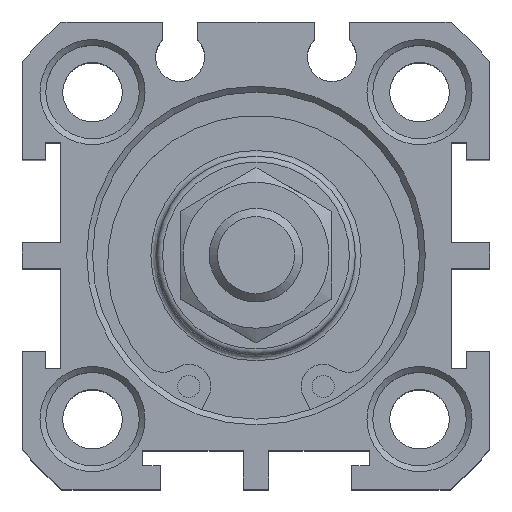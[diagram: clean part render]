
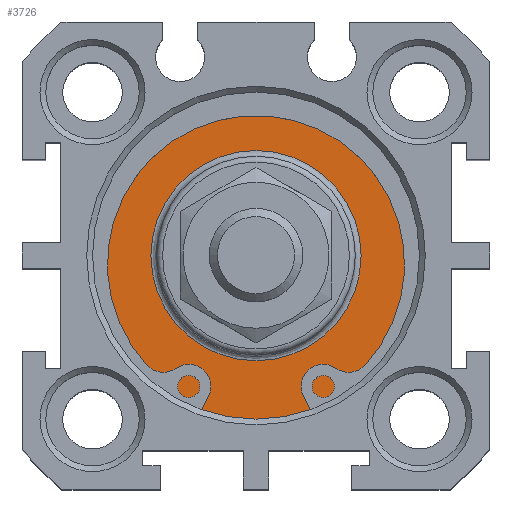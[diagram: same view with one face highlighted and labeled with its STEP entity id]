
A CAD part, top view. The second image highlights one B-rep face of the part: STEP entity #3726.
In plain terms, the highlighted planar face has unit normal (0, 0, 1).
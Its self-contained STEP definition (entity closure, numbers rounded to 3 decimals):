
#3675=CARTESIAN_POINT('',(0.12,10.914,38.3));
#3676=VERTEX_POINT('',#3675);
#3677=CARTESIAN_POINT('',(0.12,1.914,38.3));
#3678=DIRECTION('',(0.0,0.0,1.0));
#3679=DIRECTION('',(0.0,-1.0,0.0));
#3680=AXIS2_PLACEMENT_3D('',#3677,#3678,#3679);
#3681=CIRCLE('',#3680,9.);
#3682=EDGE_CURVE('',#3676,#3676,#3681,.T.);
#3707=CARTESIAN_POINT('',(0.12,13.164,38.3));
#3708=DIRECTION('',(0.0,0.0,1.0));
#3709=DIRECTION('',(1.0,0.0,0.0));
#3710=AXIS2_PLACEMENT_3D('',#3707,#3708,#3709);
#3711=PLANE('',#3710);
#3712=CARTESIAN_POINT('',(0.12,15.914,38.3));
#3713=VERTEX_POINT('',#3712);
#3714=CARTESIAN_POINT('',(0.12,1.914,38.3));
#3715=DIRECTION('',(0.0,0.0,-1.0));
#3716=DIRECTION('',(0.0,1.0,0.0));
#3717=AXIS2_PLACEMENT_3D('',#3714,#3715,#3716);
#3718=CIRCLE('',#3717,14.);
#3719=EDGE_CURVE('',#3713,#3713,#3718,.T.);
#3720=ORIENTED_EDGE('',*,*,#3719,.F.);
#3721=EDGE_LOOP('',(#3720));
#3722=FACE_OUTER_BOUND('',#3721,.T.);
#3723=ORIENTED_EDGE('',*,*,#3682,.F.);
#3724=EDGE_LOOP('',(#3723));
#3725=FACE_BOUND('',#3724,.T.);
#3726=ADVANCED_FACE('',(#3722,#3725),#3711,.T.);
